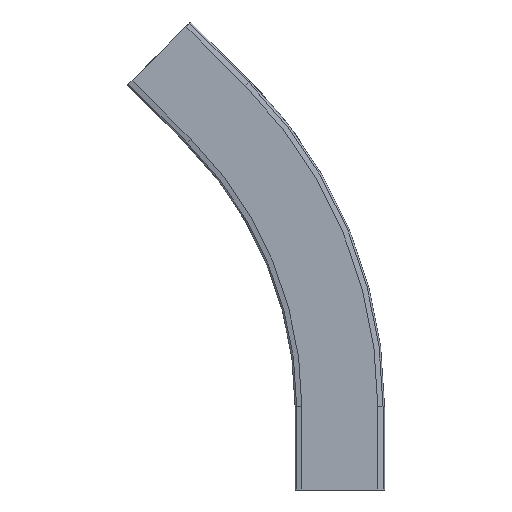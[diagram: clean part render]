
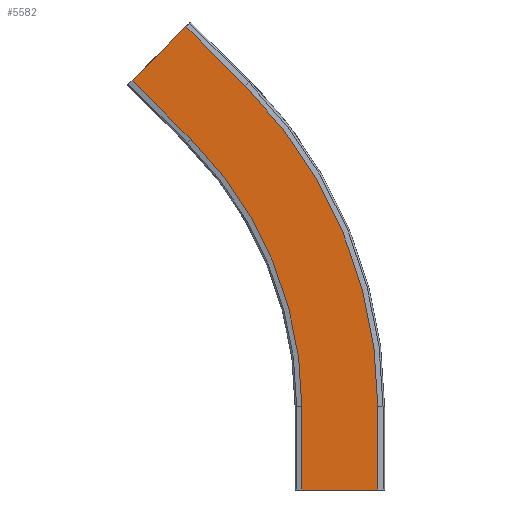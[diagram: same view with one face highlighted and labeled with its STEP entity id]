
A CAD part, front view. The second image highlights one B-rep face of the part: STEP entity #5582.
In plain terms, the highlighted planar face has unit normal (0, -1, 0).
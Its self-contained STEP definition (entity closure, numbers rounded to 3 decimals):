
#5213=CARTESIAN_POINT('',(36.5,-11.,0.0));
#5214=VERTEX_POINT('',#5213);
#5221=CARTESIAN_POINT('',(-36.5,-11.,0.0));
#5222=VERTEX_POINT('',#5221);
#5223=CARTESIAN_POINT('',(-36.5,-11.,0.0));
#5224=DIRECTION('',(1.0,0.0,0.0));
#5225=VECTOR('',#5224,73.);
#5226=LINE('',#5223,#5225);
#5227=EDGE_CURVE('',#5222,#5214,#5226,.T.);
#5293=CARTESIAN_POINT('',(-36.5,-11.,80.0));
#5294=VERTEX_POINT('',#5293);
#5308=CARTESIAN_POINT('',(-36.5,-11.,0.0));
#5309=DIRECTION('',(0.0,0.0,1.0));
#5310=VECTOR('',#5309,80.0);
#5311=LINE('',#5308,#5310);
#5312=EDGE_CURVE('',#5222,#5294,#5311,.T.);
#5322=CARTESIAN_POINT('',(36.5,-11.,80.0));
#5323=VERTEX_POINT('',#5322);
#5332=CARTESIAN_POINT('',(36.5,-11.,0.0));
#5333=DIRECTION('',(0.0,0.0,1.0));
#5334=VECTOR('',#5333,80.0);
#5335=LINE('',#5332,#5334);
#5336=EDGE_CURVE('',#5214,#5323,#5335,.T.);
#5409=CARTESIAN_POINT('',(-91.348,-11.,388.652));
#5410=VERTEX_POINT('',#5409);
#5419=CARTESIAN_POINT('',(-400.0,-11.,80.0));
#5420=DIRECTION('',(0.0,-1.0,0.0));
#5421=DIRECTION('',(1.0,0.0,0.0));
#5422=AXIS2_PLACEMENT_3D('',#5419,#5420,#5421);
#5423=CIRCLE('',#5422,436.5);
#5424=EDGE_CURVE('',#5323,#5410,#5423,.T.);
#5476=CARTESIAN_POINT('',(-142.967,-11.,337.033));
#5477=VERTEX_POINT('',#5476);
#5492=CARTESIAN_POINT('',(-400.0,-11.,80.0));
#5493=DIRECTION('',(0.0,-1.0,0.0));
#5494=DIRECTION('',(1.0,0.0,0.0));
#5495=AXIS2_PLACEMENT_3D('',#5492,#5493,#5494);
#5496=CIRCLE('',#5495,363.5);
#5497=EDGE_CURVE('',#5294,#5477,#5496,.T.);
#5536=CARTESIAN_POINT('',(-199.535,-11.,393.602));
#5537=VERTEX_POINT('',#5536);
#5546=CARTESIAN_POINT('',(-142.967,-11.,337.033));
#5547=DIRECTION('',(-0.707,0.,0.707));
#5548=VECTOR('',#5547,80.);
#5549=LINE('',#5546,#5548);
#5550=EDGE_CURVE('',#5477,#5537,#5549,.T.);
#5555=CARTESIAN_POINT('',(187.365,-11.,109.939));
#5556=DIRECTION('',(0.0,-1.0,0.0));
#5557=DIRECTION('',(0.707,0.0,-0.707));
#5558=AXIS2_PLACEMENT_3D('',#5555,#5556,#5557);
#5559=PLANE('',#5558);
#5560=CARTESIAN_POINT('',(-147.916,-11.,445.221));
#5561=VERTEX_POINT('',#5560);
#5562=CARTESIAN_POINT('',(-147.916,-11.,445.221));
#5563=DIRECTION('',(-0.707,0.,-0.707));
#5564=VECTOR('',#5563,73.);
#5565=LINE('',#5562,#5564);
#5566=EDGE_CURVE('',#5561,#5537,#5565,.T.);
#5567=ORIENTED_EDGE('',*,*,#5566,.T.);
#5568=ORIENTED_EDGE('',*,*,#5550,.F.);
#5569=ORIENTED_EDGE('',*,*,#5497,.F.);
#5570=ORIENTED_EDGE('',*,*,#5312,.F.);
#5571=ORIENTED_EDGE('',*,*,#5227,.T.);
#5572=ORIENTED_EDGE('',*,*,#5336,.T.);
#5573=ORIENTED_EDGE('',*,*,#5424,.T.);
#5574=CARTESIAN_POINT('',(-91.348,-11.,388.652));
#5575=DIRECTION('',(-0.707,0.,0.707));
#5576=VECTOR('',#5575,80.0);
#5577=LINE('',#5574,#5576);
#5578=EDGE_CURVE('',#5410,#5561,#5577,.T.);
#5579=ORIENTED_EDGE('',*,*,#5578,.T.);
#5580=EDGE_LOOP('',(#5567,#5568,#5569,#5570,#5571,#5572,#5573,#5579));
#5581=FACE_OUTER_BOUND('',#5580,.T.);
#5582=ADVANCED_FACE('',(#5581),#5559,.T.);
